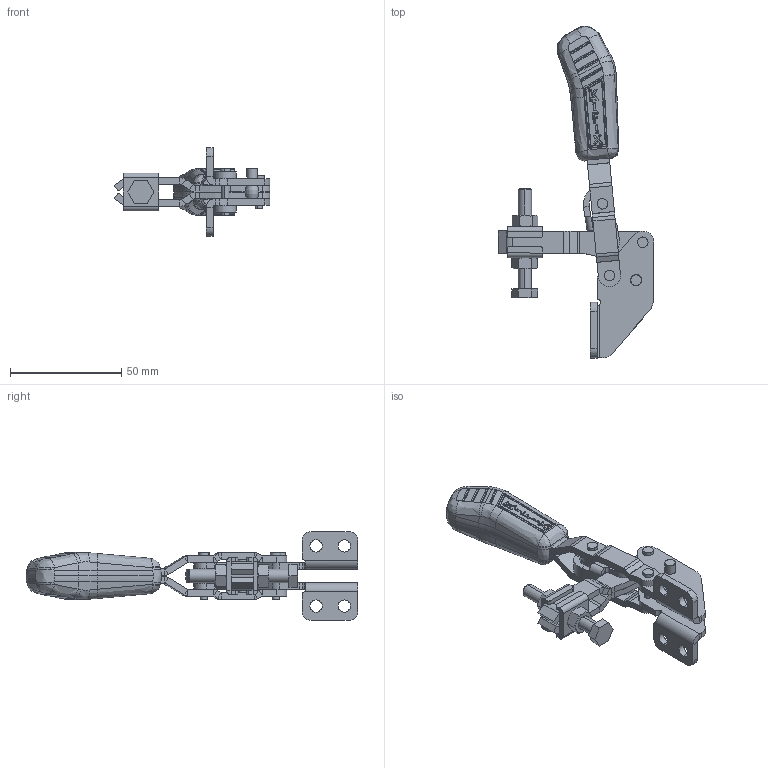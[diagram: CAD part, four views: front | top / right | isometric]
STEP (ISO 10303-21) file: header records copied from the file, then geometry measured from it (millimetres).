
FILE_DESCRIPTION (( 'STEP AP203' ), '1' );
FILE_NAME ('KF-012 F.STEP', '2014-07-29T13:15:06', ( 'Ricardo' ), ( '' ), 'SwSTEP 2.0', 'SolidWorks 2013', '' );
FILE_SCHEMA (( 'CONFIG_CONTROL_DESIGN' ));
Length unit declared in the file: millimetre
Products named in the file (15): 12.50002; 03.13007_Direita; 02.12020_Direita; 03.13007_Esquerda; 02.12020_Esquerda; 04.10004; 07.60005; 06.50011; 14.10004; 06.50012; KF-012 F; 05.20007; 04.20004; 11.50001; 01.10120
Assembly tree (19 placements, depth 2):
  KF-012 F
    01.10120  x2
    03.13007_Direita
    03.13007_Esquerda
    04.10004
    06.50011  x2
    06.50012  x2
    05.20007
    04.20004
    11.50001  x2
    12.50002
    02.12020_Direita
    02.12020_Esquerda
    07.60005
    14.10004  x2
Bounding box: 70.01 x 149.23 x 40 mm (x, y, z)
Volume: 41441.3 mm3; surface area: 29772.4 mm2
Topology: 19 solids, 19 shells, 1115 faces, 2725 edges, 1667 vertices
Faces by surface type: plane 383, cylinder 363, bspline 275, sphere 50, cone 40, torus 4
Entity records: 37805 total; most frequent: CARTESIAN_POINT 15204, ORIENTED_EDGE 4882, DIRECTION 3634, EDGE_CURVE 2441, VERTEX_POINT 1507, AXIS2_PLACEMENT_3D 1347, EDGE_LOOP 1052, ADVANCED_FACE 983
